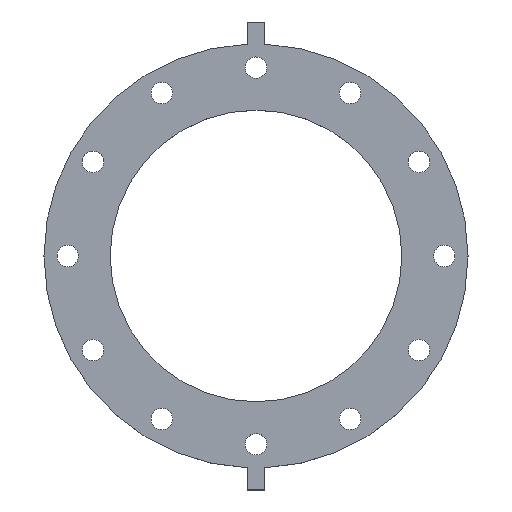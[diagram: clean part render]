
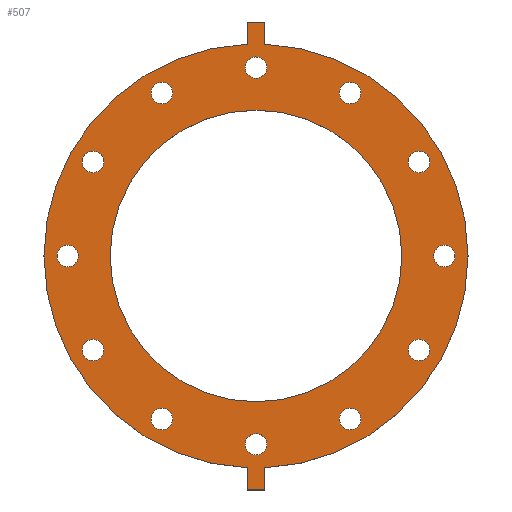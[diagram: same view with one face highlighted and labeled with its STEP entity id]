
A CAD part, top view. The second image highlights one B-rep face of the part: STEP entity #507.
In plain terms, the highlighted planar face has unit normal (0, 0, 1).
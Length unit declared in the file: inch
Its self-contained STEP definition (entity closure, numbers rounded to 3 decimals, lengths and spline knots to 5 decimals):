
#14=FACE_BOUND('',#93,.T.);
#15=FACE_BOUND('',#94,.T.);
#16=FACE_BOUND('',#95,.T.);
#17=FACE_BOUND('',#96,.T.);
#18=FACE_BOUND('',#97,.T.);
#19=FACE_BOUND('',#98,.T.);
#20=FACE_BOUND('',#99,.T.);
#21=FACE_BOUND('',#100,.T.);
#22=FACE_BOUND('',#101,.T.);
#23=FACE_BOUND('',#102,.T.);
#24=FACE_BOUND('',#103,.T.);
#25=FACE_BOUND('',#104,.T.);
#26=FACE_BOUND('',#105,.T.);
#46=PLANE('',#580);
#69=FACE_OUTER_BOUND('',#92,.T.);
#92=EDGE_LOOP('',(#405,#406,#407,#408,#409,#410,#411,#412));
#93=EDGE_LOOP('',(#413));
#94=EDGE_LOOP('',(#414));
#95=EDGE_LOOP('',(#415));
#96=EDGE_LOOP('',(#416));
#97=EDGE_LOOP('',(#417));
#98=EDGE_LOOP('',(#418));
#99=EDGE_LOOP('',(#419));
#100=EDGE_LOOP('',(#420));
#101=EDGE_LOOP('',(#421));
#102=EDGE_LOOP('',(#422));
#103=EDGE_LOOP('',(#423));
#104=EDGE_LOOP('',(#424));
#105=EDGE_LOOP('',(#425));
#139=LINE('',#825,#172);
#141=LINE('',#830,#174);
#144=LINE('',#834,#177);
#147=LINE('',#842,#180);
#150=LINE('',#846,#183);
#152=LINE('',#849,#185);
#172=VECTOR('',#695,0.3937);
#174=VECTOR('',#699,0.3937);
#177=VECTOR('',#704,0.3937);
#180=VECTOR('',#709,0.3937);
#183=VECTOR('',#714,0.3937);
#185=VECTOR('',#718,0.3937);
#186=CIRCLE('',#530,0.395);
#188=CIRCLE('',#533,0.395);
#190=CIRCLE('',#536,0.395);
#192=CIRCLE('',#539,0.395);
#194=CIRCLE('',#542,0.395);
#196=CIRCLE('',#545,0.395);
#198=CIRCLE('',#548,0.395);
#200=CIRCLE('',#551,0.395);
#202=CIRCLE('',#554,0.395);
#204=CIRCLE('',#557,0.395);
#206=CIRCLE('',#560,0.395);
#208=CIRCLE('',#563,0.395);
#211=CIRCLE('',#567,5.375);
#213=CIRCLE('',#570,7.815);
#214=CIRCLE('',#572,7.815);
#216=VERTEX_POINT('',#725);
#218=VERTEX_POINT('',#731);
#220=VERTEX_POINT('',#737);
#222=VERTEX_POINT('',#743);
#224=VERTEX_POINT('',#749);
#226=VERTEX_POINT('',#755);
#228=VERTEX_POINT('',#761);
#230=VERTEX_POINT('',#767);
#232=VERTEX_POINT('',#773);
#234=VERTEX_POINT('',#779);
#236=VERTEX_POINT('',#785);
#238=VERTEX_POINT('',#791);
#241=VERTEX_POINT('',#799);
#243=VERTEX_POINT('',#804);
#245=VERTEX_POINT('',#808);
#247=VERTEX_POINT('',#813);
#248=VERTEX_POINT('',#815);
#251=VERTEX_POINT('',#823);
#253=VERTEX_POINT('',#829);
#256=VERTEX_POINT('',#839);
#257=VERTEX_POINT('',#841);
#258=EDGE_CURVE('',#216,#216,#186,.T.);
#261=EDGE_CURVE('',#218,#218,#188,.T.);
#264=EDGE_CURVE('',#220,#220,#190,.T.);
#267=EDGE_CURVE('',#222,#222,#192,.T.);
#270=EDGE_CURVE('',#224,#224,#194,.T.);
#273=EDGE_CURVE('',#226,#226,#196,.T.);
#276=EDGE_CURVE('',#228,#228,#198,.T.);
#279=EDGE_CURVE('',#230,#230,#200,.T.);
#282=EDGE_CURVE('',#232,#232,#202,.T.);
#285=EDGE_CURVE('',#234,#234,#204,.T.);
#288=EDGE_CURVE('',#236,#236,#206,.T.);
#291=EDGE_CURVE('',#238,#238,#208,.T.);
#296=EDGE_CURVE('',#241,#241,#211,.T.);
#300=EDGE_CURVE('',#243,#245,#213,.T.);
#302=EDGE_CURVE('',#248,#247,#214,.T.);
#307=EDGE_CURVE('',#245,#251,#139,.T.);
#309=EDGE_CURVE('',#253,#248,#141,.T.);
#312=EDGE_CURVE('',#251,#253,#144,.T.);
#315=EDGE_CURVE('',#257,#256,#147,.T.);
#318=EDGE_CURVE('',#247,#257,#150,.T.);
#320=EDGE_CURVE('',#256,#243,#152,.T.);
#405=ORIENTED_EDGE('',*,*,#320,.T.);
#406=ORIENTED_EDGE('',*,*,#300,.T.);
#407=ORIENTED_EDGE('',*,*,#307,.T.);
#408=ORIENTED_EDGE('',*,*,#312,.T.);
#409=ORIENTED_EDGE('',*,*,#309,.T.);
#410=ORIENTED_EDGE('',*,*,#302,.T.);
#411=ORIENTED_EDGE('',*,*,#318,.T.);
#412=ORIENTED_EDGE('',*,*,#315,.T.);
#413=ORIENTED_EDGE('',*,*,#258,.T.);
#414=ORIENTED_EDGE('',*,*,#261,.T.);
#415=ORIENTED_EDGE('',*,*,#264,.T.);
#416=ORIENTED_EDGE('',*,*,#267,.T.);
#417=ORIENTED_EDGE('',*,*,#270,.T.);
#418=ORIENTED_EDGE('',*,*,#273,.T.);
#419=ORIENTED_EDGE('',*,*,#276,.T.);
#420=ORIENTED_EDGE('',*,*,#279,.T.);
#421=ORIENTED_EDGE('',*,*,#282,.T.);
#422=ORIENTED_EDGE('',*,*,#285,.T.);
#423=ORIENTED_EDGE('',*,*,#288,.T.);
#424=ORIENTED_EDGE('',*,*,#291,.T.);
#425=ORIENTED_EDGE('',*,*,#296,.T.);
#507=ADVANCED_FACE('',(#69,#14,#15,#16,#17,#18,#19,#20,#21,#22,#23,#24,
#25,#26),#46,.T.);
#530=AXIS2_PLACEMENT_3D('',#726,#586,#587);
#533=AXIS2_PLACEMENT_3D('',#732,#593,#594);
#536=AXIS2_PLACEMENT_3D('',#738,#600,#601);
#539=AXIS2_PLACEMENT_3D('',#744,#607,#608);
#542=AXIS2_PLACEMENT_3D('',#750,#614,#615);
#545=AXIS2_PLACEMENT_3D('',#756,#621,#622);
#548=AXIS2_PLACEMENT_3D('',#762,#628,#629);
#551=AXIS2_PLACEMENT_3D('',#768,#635,#636);
#554=AXIS2_PLACEMENT_3D('',#774,#642,#643);
#557=AXIS2_PLACEMENT_3D('',#780,#649,#650);
#560=AXIS2_PLACEMENT_3D('',#786,#656,#657);
#563=AXIS2_PLACEMENT_3D('',#792,#663,#664);
#567=AXIS2_PLACEMENT_3D('',#801,#673,#674);
#570=AXIS2_PLACEMENT_3D('',#810,#681,#682);
#572=AXIS2_PLACEMENT_3D('',#816,#686,#687);
#580=AXIS2_PLACEMENT_3D('',#850,#719,#720);
#586=DIRECTION('center_axis',(0.,0.,-1.));
#587=DIRECTION('ref_axis',(-0.5,-0.866,0.));
#593=DIRECTION('center_axis',(0.,0.,-1.));
#594=DIRECTION('ref_axis',(-0.866,-0.5,0.));
#600=DIRECTION('center_axis',(0.,0.,-1.));
#601=DIRECTION('ref_axis',(-1.,0.,0.));
#607=DIRECTION('center_axis',(0.,0.,-1.));
#608=DIRECTION('ref_axis',(-0.866,0.5,0.));
#614=DIRECTION('center_axis',(0.,0.,-1.));
#615=DIRECTION('ref_axis',(-0.5,0.866,0.));
#621=DIRECTION('center_axis',(0.,0.,-1.));
#622=DIRECTION('ref_axis',(0.,1.,0.));
#628=DIRECTION('center_axis',(0.,0.,-1.));
#629=DIRECTION('ref_axis',(0.5,0.866,0.));
#635=DIRECTION('center_axis',(0.,0.,-1.));
#636=DIRECTION('ref_axis',(0.866,0.5,0.));
#642=DIRECTION('center_axis',(0.,0.,-1.));
#643=DIRECTION('ref_axis',(1.,0.,0.));
#649=DIRECTION('center_axis',(0.,0.,-1.));
#650=DIRECTION('ref_axis',(0.866,-0.5,0.));
#656=DIRECTION('center_axis',(0.,0.,-1.));
#657=DIRECTION('ref_axis',(0.5,-0.866,0.));
#663=DIRECTION('center_axis',(0.,0.,-1.));
#664=DIRECTION('ref_axis',(0.,-1.,0.));
#673=DIRECTION('center_axis',(0.,0.,-1.));
#674=DIRECTION('ref_axis',(0.,-1.,0.));
#681=DIRECTION('center_axis',(0.,0.,1.));
#682=DIRECTION('ref_axis',(0.,1.,0.));
#686=DIRECTION('center_axis',(0.,0.,1.));
#687=DIRECTION('ref_axis',(0.,1.,0.));
#695=DIRECTION('',(0.,-1.,0.));
#699=DIRECTION('',(0.,1.,0.));
#704=DIRECTION('',(1.,0.,0.));
#709=DIRECTION('',(-1.,0.,0.));
#714=DIRECTION('',(0.,1.,0.));
#718=DIRECTION('',(0.,-1.,0.));
#719=DIRECTION('center_axis',(0.,0.,1.));
#720=DIRECTION('ref_axis',(0.,1.,0.));
#725=CARTESIAN_POINT('',(-5.81272,3.81208,1.13));
#726=CARTESIAN_POINT('Origin',(-6.01022,3.47,1.13));
#731=CARTESIAN_POINT('',(-3.12792,6.20772,1.13));
#732=CARTESIAN_POINT('Origin',(-3.47,6.01022,1.13));
#737=CARTESIAN_POINT('',(0.395,6.94,1.13));
#738=CARTESIAN_POINT('Origin',(0.,6.94,1.13));
#743=CARTESIAN_POINT('',(3.81208,5.81272,1.13));
#744=CARTESIAN_POINT('Origin',(3.47,6.01022,1.13));
#749=CARTESIAN_POINT('',(6.20772,3.12792,1.13));
#750=CARTESIAN_POINT('Origin',(6.01022,3.47,1.13));
#755=CARTESIAN_POINT('',(6.94,-0.395,1.13));
#756=CARTESIAN_POINT('Origin',(6.94,0.,1.13));
#761=CARTESIAN_POINT('',(5.81272,-3.81208,1.13));
#762=CARTESIAN_POINT('Origin',(6.01022,-3.47,1.13));
#767=CARTESIAN_POINT('',(3.12792,-6.20772,1.13));
#768=CARTESIAN_POINT('Origin',(3.47,-6.01022,1.13));
#773=CARTESIAN_POINT('',(-0.395,-6.94,1.13));
#774=CARTESIAN_POINT('Origin',(0.,-6.94,1.13));
#779=CARTESIAN_POINT('',(-3.81208,-5.81272,1.13));
#780=CARTESIAN_POINT('Origin',(-3.47,-6.01022,1.13));
#785=CARTESIAN_POINT('',(-6.20772,-3.12792,1.13));
#786=CARTESIAN_POINT('Origin',(-6.01022,-3.47,1.13));
#791=CARTESIAN_POINT('',(-6.94,0.395,1.13));
#792=CARTESIAN_POINT('Origin',(-6.94,0.,1.13));
#799=CARTESIAN_POINT('',(0.,5.375,1.13));
#801=CARTESIAN_POINT('Origin',(0.,0.,1.13));
#804=CARTESIAN_POINT('',(-0.32,7.80845,1.13));
#808=CARTESIAN_POINT('',(-0.32,-7.80845,1.13));
#810=CARTESIAN_POINT('Origin',(0.,0.,1.13));
#813=CARTESIAN_POINT('',(0.32,7.80845,1.13));
#815=CARTESIAN_POINT('',(0.32,-7.80845,1.13));
#816=CARTESIAN_POINT('Origin',(0.,0.,1.13));
#823=CARTESIAN_POINT('',(-0.32,-8.625,1.13));
#825=CARTESIAN_POINT('',(-0.32,-7.80845,1.13));
#829=CARTESIAN_POINT('',(0.32,-8.625,1.13));
#830=CARTESIAN_POINT('',(0.32,-8.625,1.13));
#834=CARTESIAN_POINT('',(-0.32,-8.625,1.13));
#839=CARTESIAN_POINT('',(-0.32,8.625,1.13));
#841=CARTESIAN_POINT('',(0.32,8.625,1.13));
#842=CARTESIAN_POINT('',(0.32,8.625,1.13));
#846=CARTESIAN_POINT('',(0.32,7.80845,1.13));
#849=CARTESIAN_POINT('',(-0.32,8.625,1.13));
#850=CARTESIAN_POINT('Origin',(0.,8.24119,1.13));
